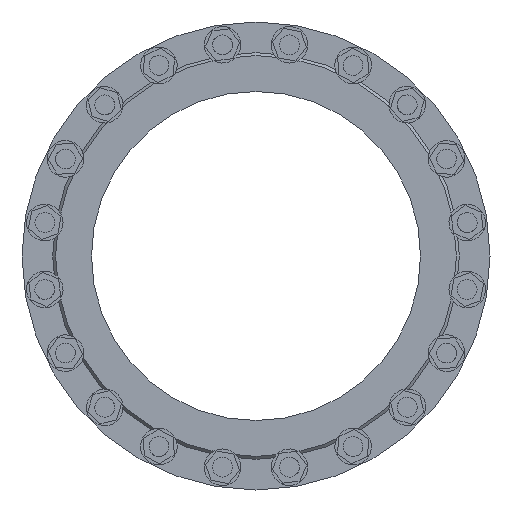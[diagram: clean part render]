
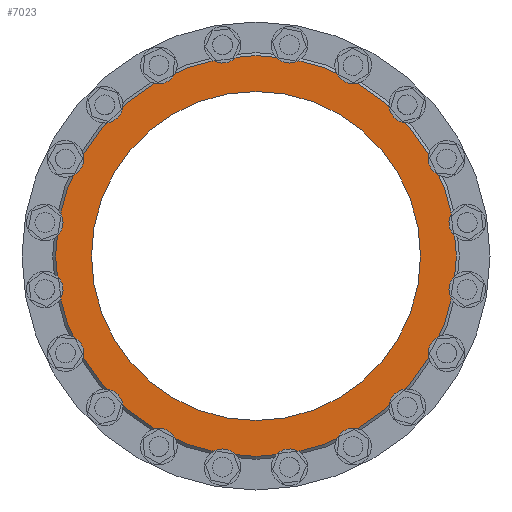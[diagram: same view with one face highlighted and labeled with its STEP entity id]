
A CAD part, left-side view. The second image highlights one B-rep face of the part: STEP entity #7023.
In plain terms, the highlighted planar face has unit normal (-1, 0, 0).
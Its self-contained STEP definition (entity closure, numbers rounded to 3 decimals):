
#173 = EDGE_CURVE ( 'NONE', #15162, #15162, #13321, .T. ) ;
#651 = AXIS2_PLACEMENT_3D ( 'NONE', #24329, #31534, #7393 ) ;
#824 = ORIENTED_EDGE ( 'NONE', *, *, #21671, .T. ) ;
#2756 = EDGE_LOOP ( 'NONE', ( #824 ) ) ;
#4134 = AXIS2_PLACEMENT_3D ( 'NONE', #11176, #21097, #20931 ) ;
#5501 = ORIENTED_EDGE ( 'NONE', *, *, #173, .T. ) ;
#5666 = AXIS2_PLACEMENT_3D ( 'NONE', #20450, #23009, #30215 ) ;
#7023 = ADVANCED_FACE ( 'NONE', ( #26733, #14571 ), #26563, .F. ) ;
#7246 = CARTESIAN_POINT ( 'NONE',  ( -75., 0., -225. ) ) ;
#7393 = DIRECTION ( 'NONE',  ( 0., 1., 0. ) ) ;
#9629 = VERTEX_POINT ( 'NONE', #7246 ) ;
#11176 = CARTESIAN_POINT ( 'NONE',  ( -75., 0., 0. ) ) ;
#13321 = CIRCLE ( 'NONE', #4134, 274. ) ;
#14571 = FACE_OUTER_BOUND ( 'NONE', #28101, .T. ) ;
#15162 = VERTEX_POINT ( 'NONE', #24925 ) ;
#19432 = CIRCLE ( 'NONE', #5666, 225. ) ;
#20450 = CARTESIAN_POINT ( 'NONE',  ( -75., 0., 0. ) ) ;
#20931 = DIRECTION ( 'NONE',  ( 0., -1., 0. ) ) ;
#21097 = DIRECTION ( 'NONE',  ( -1., 0., 0. ) ) ;
#21671 = EDGE_CURVE ( 'NONE', #9629, #9629, #19432, .T. ) ;
#23009 = DIRECTION ( 'NONE',  ( 1., 0., 0. ) ) ;
#24329 = CARTESIAN_POINT ( 'NONE',  ( -75., 0., 225. ) ) ;
#24925 = CARTESIAN_POINT ( 'NONE',  ( -75., -274., 0. ) ) ;
#26563 = PLANE ( 'NONE',  #651 ) ;
#26733 = FACE_BOUND ( 'NONE', #2756, .T. ) ;
#28101 = EDGE_LOOP ( 'NONE', ( #5501 ) ) ;
#30215 = DIRECTION ( 'NONE',  ( 0., 0., -1. ) ) ;
#31534 = DIRECTION ( 'NONE',  ( 1., 0., 0. ) ) ;
